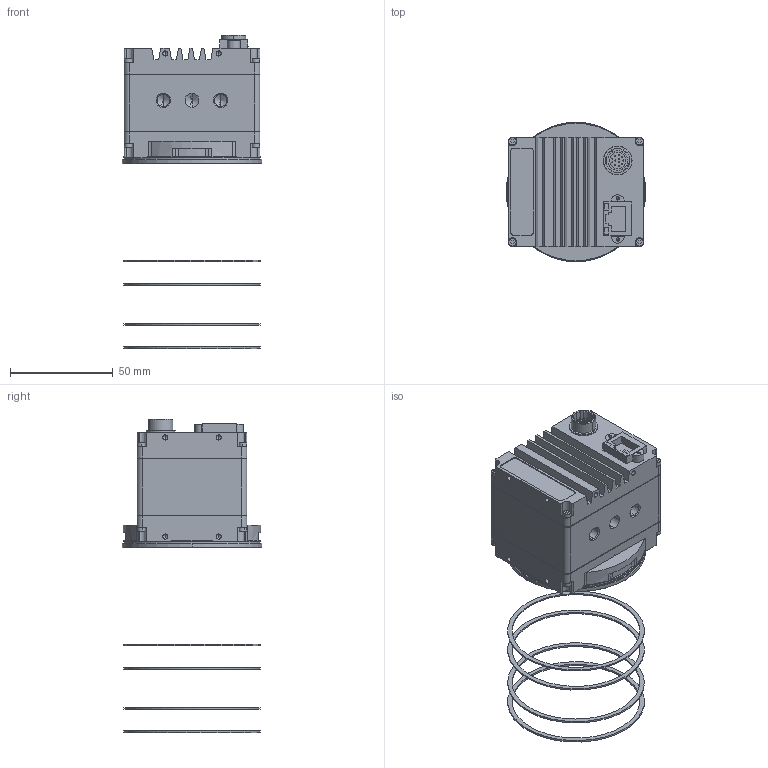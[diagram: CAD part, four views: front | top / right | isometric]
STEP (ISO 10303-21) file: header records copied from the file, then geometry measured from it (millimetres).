
FILE_DESCRIPTION (( 'STEP AP214' ), '1' );
FILE_NAME ('GT4907C M58.STEP', '2016-01-22T23:57:04', ( '' ), ( '' ), 'SwSTEP 2.0', 'SolidWorks 2015', '' );
FILE_SCHEMA (( 'AUTOMOTIVE_DESIGN' ));
Length unit declared in the file: millimetre
Products named in the file (11): 0.381MM PRECISION SHIM - defeatured; 0.787MM PRECISION SHIM - defeatured; M58 FILTER HOLDER - defeatured; FIXED M58 GTLF BODY ASSY - defeatured_GT4907; 0.813MM PRECISION SHIM - defeatured; 0.914MM PRECISION SHIM - defeatured; IR CUT FILTER - defeatured; GT4907C M58; M58 FLANGE - defeatured; 0.737MM PRECISION SHIM - defeatured; 0.635MM PRECISION SHIM - defeatured
Assembly tree (10 placements, depth 2):
  GT4907C M58
    FIXED M58 GTLF BODY ASSY - defeatured_GT4907
    IR CUT FILTER - defeatured
    M58 FILTER HOLDER - defeatured
    0.381MM PRECISION SHIM - defeatured
    0.635MM PRECISION SHIM - defeatured
    0.737MM PRECISION SHIM - defeatured
    0.787MM PRECISION SHIM - defeatured
    0.813MM PRECISION SHIM - defeatured
    0.914MM PRECISION SHIM - defeatured
    M58 FLANGE - defeatured
Bounding box: 68 x 68 x 152.62 mm (x, y, z)
Volume: 172108.9 mm3; surface area: 45355.7 mm2
Topology: 10 solids, 22 shells, 781 faces, 1941 edges, 1180 vertices
Faces by surface type: cylinder 342, plane 276, cone 122, sphere 24, torus 17
Entity records: 26572 total; most frequent: DIRECTION 4156, CARTESIAN_POINT 4119, ORIENTED_EDGE 3618, EDGE_CURVE 1809, AXIS2_PLACEMENT_3D 1573, VERTEX_POINT 1156, VECTOR 1010, LINE 1010
